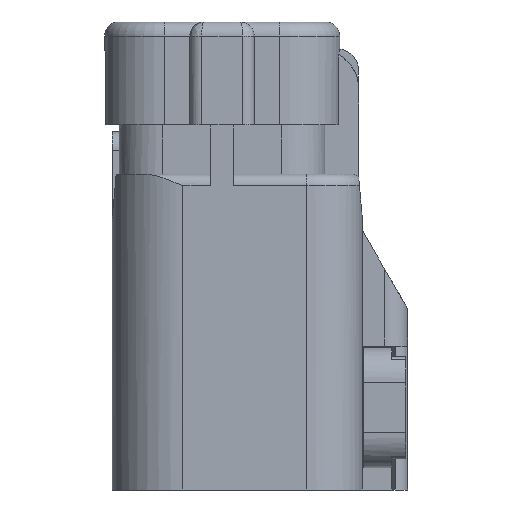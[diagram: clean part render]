
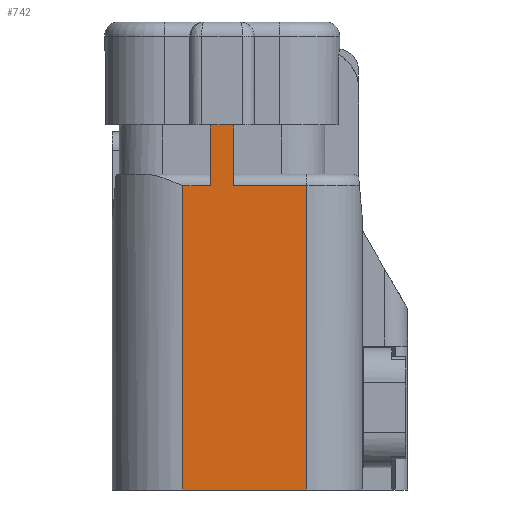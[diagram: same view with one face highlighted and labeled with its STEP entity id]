
A CAD part, left-side view. The second image highlights one B-rep face of the part: STEP entity #742.
In plain terms, the highlighted planar face has unit normal (-1, 0, 0).
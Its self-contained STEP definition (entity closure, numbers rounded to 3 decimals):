
#356=FACE_OUTER_BOUND('',#1471,.T.);
#742=ADVANCED_FACE('',(#356),#1101,.T.);
#1101=PLANE('',#7860);
#1471=EDGE_LOOP('',(#4595,#4596,#4597,#4598,#4599,#4600,#4601,#4602));
#2078=LINE('',#11150,#2956);
#2200=LINE('',#11467,#3078);
#2202=LINE('',#11472,#3080);
#2251=LINE('',#11583,#3129);
#2263=LINE('',#11628,#3141);
#2264=LINE('',#11629,#3142);
#2265=LINE('',#11631,#3143);
#2266=LINE('',#11632,#3144);
#2956=VECTOR('',#8841,1.);
#3078=VECTOR('',#9111,1.);
#3080=VECTOR('',#9115,1.);
#3129=VECTOR('',#9222,1.);
#3141=VECTOR('',#9260,1.);
#3142=VECTOR('',#9261,1.);
#3143=VECTOR('',#9262,1.);
#3144=VECTOR('',#9263,1.);
#4595=ORIENTED_EDGE('',*,*,#7012,.F.);
#4596=ORIENTED_EDGE('',*,*,#6941,.T.);
#4597=ORIENTED_EDGE('',*,*,#7013,.F.);
#4598=ORIENTED_EDGE('',*,*,#7014,.F.);
#4599=ORIENTED_EDGE('',*,*,#6793,.F.);
#4600=ORIENTED_EDGE('',*,*,#6996,.T.);
#4601=ORIENTED_EDGE('',*,*,#7015,.F.);
#4602=ORIENTED_EDGE('',*,*,#6943,.T.);
#5988=VERTEX_POINT('',#11149);
#5989=VERTEX_POINT('',#11151);
#6087=VERTEX_POINT('',#11460);
#6090=VERTEX_POINT('',#11466);
#6091=VERTEX_POINT('',#11470);
#6093=VERTEX_POINT('',#11473);
#6117=VERTEX_POINT('',#11582);
#6124=VERTEX_POINT('',#11630);
#6793=EDGE_CURVE('',#5988,#5989,#2078,.T.);
#6941=EDGE_CURVE('',#6087,#6090,#2200,.T.);
#6943=EDGE_CURVE('',#6093,#6091,#2202,.T.);
#6996=EDGE_CURVE('',#5988,#6117,#2251,.T.);
#7012=EDGE_CURVE('',#6087,#6091,#2263,.T.);
#7013=EDGE_CURVE('',#6124,#6090,#2264,.T.);
#7014=EDGE_CURVE('',#5989,#6124,#2265,.T.);
#7015=EDGE_CURVE('',#6093,#6117,#2266,.T.);
#7860=AXIS2_PLACEMENT_3D('',#11633,#9264,#9265);
#8841=DIRECTION('',(0.,1.,0.));
#9111=DIRECTION('',(0.,0.,-1.));
#9115=DIRECTION('',(0.,0.,1.));
#9222=DIRECTION('',(0.,0.,1.));
#9260=DIRECTION('',(0.,-1.,0.));
#9261=DIRECTION('',(0.,-1.,0.));
#9262=DIRECTION('',(0.,0.,1.));
#9263=DIRECTION('',(0.,-1.,0.));
#9264=DIRECTION('',(-1.,0.,0.));
#9265=DIRECTION('',(0.,1.,0.));
#11149=CARTESIAN_POINT('',(-13.5,-7.248,-5.85));
#11150=CARTESIAN_POINT('',(-13.5,-17.773,-5.85));
#11151=CARTESIAN_POINT('',(-13.5,3.352,-5.85));
#11460=CARTESIAN_POINT('',(-13.5,1.,25.35));
#11466=CARTESIAN_POINT('',(-13.5,1.,20.15));
#11467=CARTESIAN_POINT('',(-13.5,1.,27.466));
#11470=CARTESIAN_POINT('',(-13.5,-1.,25.35));
#11472=CARTESIAN_POINT('',(-13.5,-1.,20.15));
#11473=CARTESIAN_POINT('',(-13.5,-1.,20.15));
#11582=CARTESIAN_POINT('',(-13.5,-7.248,20.15));
#11583=CARTESIAN_POINT('',(-13.5,-7.248,-5.35));
#11628=CARTESIAN_POINT('',(-13.5,4.412,25.35));
#11629=CARTESIAN_POINT('',(-13.5,3.352,20.15));
#11630=CARTESIAN_POINT('',(-13.5,3.352,20.15));
#11631=CARTESIAN_POINT('',(-13.5,3.352,-5.35));
#11632=CARTESIAN_POINT('',(-13.5,-1.,20.15));
#11633=CARTESIAN_POINT('',(-13.5,4.412,-8.632));
